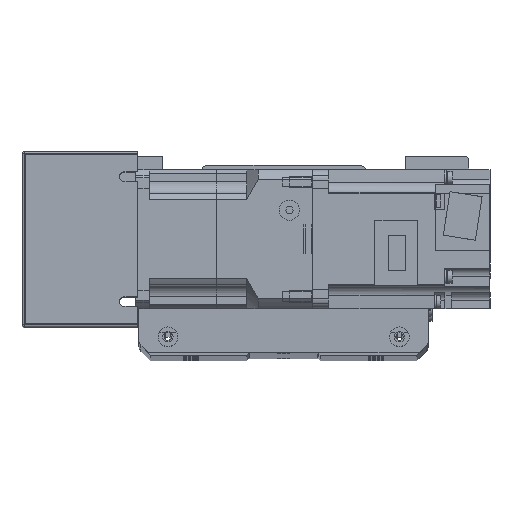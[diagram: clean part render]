
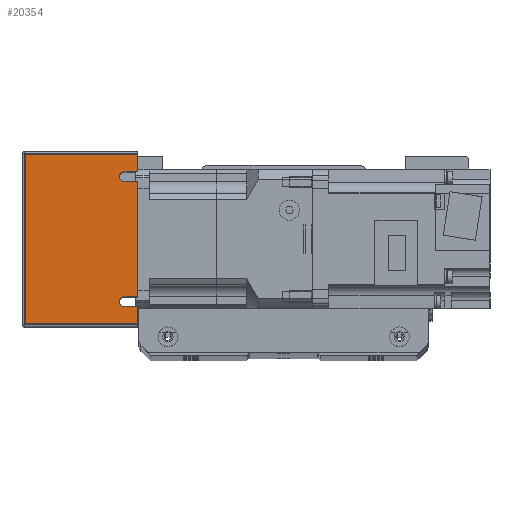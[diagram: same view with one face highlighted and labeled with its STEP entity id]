
A CAD part, top view. The second image highlights one B-rep face of the part: STEP entity #20354.
In plain terms, the highlighted planar face has unit normal (0, 0, 1) as drawn and (-1, 0, 0) by its records, which use the part's own axes.
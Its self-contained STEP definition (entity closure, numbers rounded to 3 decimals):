
#706=PLANE('',#22568);
#2036=LINE('',#34486,#3660);
#2045=LINE('',#34505,#3669);
#2052=LINE('',#34522,#3676);
#2060=LINE('',#34540,#3684);
#2073=LINE('',#34579,#3697);
#2078=LINE('',#34591,#3702);
#2082=LINE('',#34603,#3706);
#2085=LINE('',#34613,#3709);
#2086=LINE('',#34615,#3710);
#2087=LINE('',#34616,#3711);
#3660=VECTOR('',#27961,10.);
#3669=VECTOR('',#27974,10.);
#3676=VECTOR('',#27985,10.);
#3684=VECTOR('',#27997,10.);
#3697=VECTOR('',#28040,10.);
#3702=VECTOR('',#28051,10.);
#3706=VECTOR('',#28061,10.);
#3709=VECTOR('',#28072,10.);
#3710=VECTOR('',#28073,10.);
#3711=VECTOR('',#28074,10.);
#6098=FACE_OUTER_BOUND('',#7754,.T.);
#7754=EDGE_LOOP('',(#18275,#18276,#18277,#18278,#18279,#18280,#18281,#18282,
#18283,#18284,#18285,#18286));
#8922=CIRCLE('',#22546,2.);
#8927=CIRCLE('',#22554,2.);
#10639=VERTEX_POINT('',#34483);
#10640=VERTEX_POINT('',#34485);
#10646=VERTEX_POINT('',#34499);
#10648=VERTEX_POINT('',#34503);
#10655=VERTEX_POINT('',#34519);
#10656=VERTEX_POINT('',#34521);
#10663=VERTEX_POINT('',#34537);
#10664=VERTEX_POINT('',#34539);
#10675=VERTEX_POINT('',#34577);
#10684=VERTEX_POINT('',#34602);
#10687=VERTEX_POINT('',#34612);
#10688=VERTEX_POINT('',#34614);
#13218=EDGE_CURVE('',#10640,#10639,#2036,.T.);
#13227=EDGE_CURVE('',#10646,#10648,#2045,.T.);
#13234=EDGE_CURVE('',#10656,#10655,#2052,.T.);
#13242=EDGE_CURVE('',#10664,#10663,#2060,.T.);
#13248=EDGE_CURVE('',#10648,#10640,#8922,.T.);
#13259=EDGE_CURVE('',#10663,#10656,#8927,.T.);
#13264=EDGE_CURVE('',#10675,#10655,#2073,.T.);
#13271=EDGE_CURVE('',#10664,#10639,#2078,.T.);
#13277=EDGE_CURVE('',#10646,#10684,#2082,.T.);
#13282=EDGE_CURVE('',#10687,#10675,#2085,.T.);
#13283=EDGE_CURVE('',#10688,#10687,#2086,.T.);
#13284=EDGE_CURVE('',#10684,#10688,#2087,.T.);
#18275=ORIENTED_EDGE('',*,*,#13218,.T.);
#18276=ORIENTED_EDGE('',*,*,#13271,.F.);
#18277=ORIENTED_EDGE('',*,*,#13242,.T.);
#18278=ORIENTED_EDGE('',*,*,#13259,.T.);
#18279=ORIENTED_EDGE('',*,*,#13234,.T.);
#18280=ORIENTED_EDGE('',*,*,#13264,.F.);
#18281=ORIENTED_EDGE('',*,*,#13282,.F.);
#18282=ORIENTED_EDGE('',*,*,#13283,.F.);
#18283=ORIENTED_EDGE('',*,*,#13284,.F.);
#18284=ORIENTED_EDGE('',*,*,#13277,.F.);
#18285=ORIENTED_EDGE('',*,*,#13227,.T.);
#18286=ORIENTED_EDGE('',*,*,#13248,.T.);
#20354=ADVANCED_FACE('',(#6098),#706,.T.);
#22546=AXIS2_PLACEMENT_3D('',#34552,#28007,#28008);
#22554=AXIS2_PLACEMENT_3D('',#34570,#28029,#28030);
#22568=AXIS2_PLACEMENT_3D('',#34611,#28070,#28071);
#27961=DIRECTION('',(0.,0.,1.));
#27974=DIRECTION('',(0.,0.,-1.));
#27985=DIRECTION('',(0.,0.,1.));
#27997=DIRECTION('',(0.,0.,-1.));
#28007=DIRECTION('center_axis',(1.,0.,0.));
#28008=DIRECTION('ref_axis',(0.,0.,1.));
#28029=DIRECTION('center_axis',(1.,0.,0.));
#28030=DIRECTION('ref_axis',(0.,0.,1.));
#28040=DIRECTION('',(0.,-1.,0.));
#28051=DIRECTION('',(0.,-1.,0.));
#28061=DIRECTION('',(0.,-1.,0.));
#28070=DIRECTION('center_axis',(-1.,0.,0.));
#28071=DIRECTION('ref_axis',(0.,-1.,0.));
#28072=DIRECTION('',(0.,0.,1.));
#28073=DIRECTION('',(0.,1.,0.));
#28074=DIRECTION('',(0.,0.,-1.));
#34483=CARTESIAN_POINT('',(-91.,-25.,25.));
#34485=CARTESIAN_POINT('',(-91.,-25.,19.));
#34486=CARTESIAN_POINT('',(-91.,-25.,9.5));
#34499=CARTESIAN_POINT('',(-91.,-29.,25.));
#34503=CARTESIAN_POINT('',(-91.,-29.,19.));
#34505=CARTESIAN_POINT('',(-91.,-29.,15.178));
#34519=CARTESIAN_POINT('',(-91.,29.,25.));
#34521=CARTESIAN_POINT('',(-91.,29.,19.));
#34522=CARTESIAN_POINT('',(-91.,29.,9.5));
#34537=CARTESIAN_POINT('',(-91.,25.,19.));
#34539=CARTESIAN_POINT('',(-91.,25.,25.));
#34540=CARTESIAN_POINT('',(-91.,25.,15.178));
#34552=CARTESIAN_POINT('Origin',(-91.,-27.,19.));
#34570=CARTESIAN_POINT('Origin',(-91.,27.,19.));
#34577=CARTESIAN_POINT('',(-91.,37.,25.));
#34579=CARTESIAN_POINT('',(-91.,-38.,25.));
#34591=CARTESIAN_POINT('',(-91.,-38.,25.));
#34602=CARTESIAN_POINT('',(-91.,-37.,25.));
#34603=CARTESIAN_POINT('',(-91.,-38.,25.));
#34611=CARTESIAN_POINT('Origin',(-91.,38.,0.));
#34612=CARTESIAN_POINT('',(-91.,37.,-24.));
#34613=CARTESIAN_POINT('',(-91.,37.,0.));
#34614=CARTESIAN_POINT('',(-91.,-37.,-24.));
#34615=CARTESIAN_POINT('',(-91.,19.,-24.));
#34616=CARTESIAN_POINT('',(-91.,-37.,0.));
